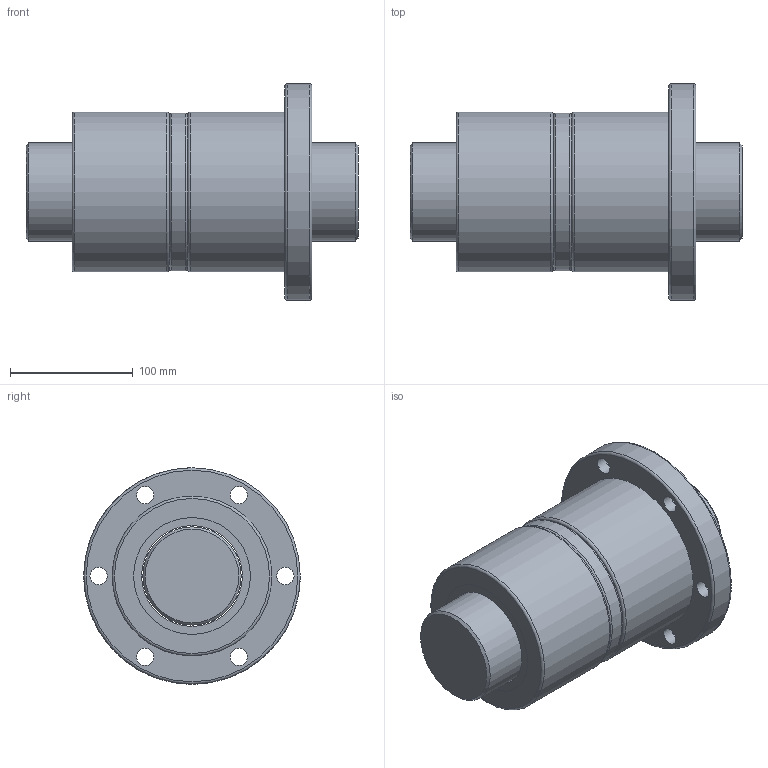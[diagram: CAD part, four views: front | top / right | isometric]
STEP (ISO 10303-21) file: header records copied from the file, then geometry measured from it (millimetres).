
FILE_DESCRIPTION(/* description */ (''),/* implementation_level */ '2;1');
FILE_NAME(/* name */ 'DFV8010',/* time_stamp */ '2007-10-26T13:14:14+08:00',/* author */ (''),/* organization */ (''),/* preprocessor_version */ 'ST-DEVELOPER v9',/* originating_system */ 'EDS PLM SOLUTIONS - UNIGRAPHICS NX 1.0',/* authorisation */ '');
FILE_SCHEMA (('CONFIG_CONTROL_DESIGN'));
Length unit declared in the file: millimetre
Products named in the file (1): FANNDA0400h2
Bounding box: 270 x 176 x 176 mm (x, y, z)
Volume: 3116313.8 mm3; surface area: 299028.7 mm2
Topology: 6 solids, 6 shells, 56 faces, 101 edges, 63 vertices
Faces by surface type: cylinder 26, plane 20, torus 7, cone 3
Full cylindrical faces by diameter (mm): 14 x6, 20 x6, 80 x1, 82 x5, 95 x4, 128 x1, 130 x2, 176 x1
Entity records: 1296 total; most frequent: DIRECTION 238, CARTESIAN_POINT 179, ORIENTED_EDGE 124, EDGE_LOOP 120, AXIS2_PLACEMENT_3D 119, FACE_BOUND 97, EDGE_CURVE 62, CIRCLE 62
